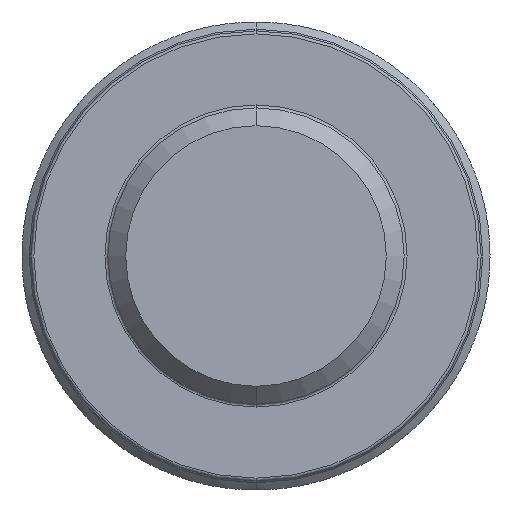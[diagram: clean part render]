
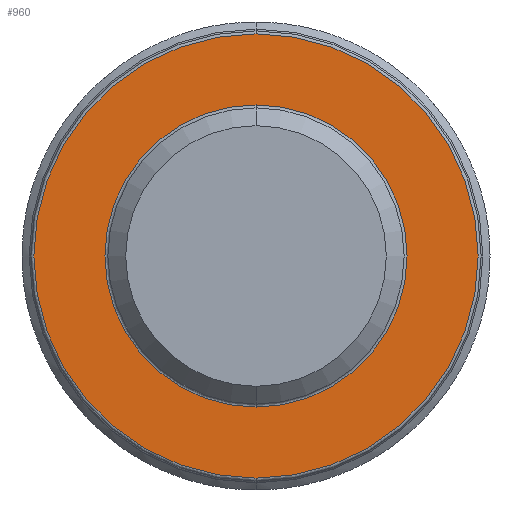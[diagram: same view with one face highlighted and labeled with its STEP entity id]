
A CAD part, front view. The second image highlights one B-rep face of the part: STEP entity #960.
In plain terms, the highlighted planar face has unit normal (0, -1, 0).
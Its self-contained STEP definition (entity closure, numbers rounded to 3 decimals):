
#39 = ORIENTED_EDGE ( 'NONE', *, *, #2730, .T. ) ;
#41 = VERTEX_POINT ( 'NONE', #648 ) ;
#360 = AXIS2_PLACEMENT_3D ( 'NONE', #5752, #2528, #1775 ) ;
#648 = CARTESIAN_POINT ( 'NONE',  ( 0., -10., 7.5 ) ) ;
#780 = PLANE ( 'NONE',  #6073 ) ;
#844 = CARTESIAN_POINT ( 'NONE',  ( 0., -10., -7.5 ) ) ;
#960 = ADVANCED_FACE ( 'NONE', ( #4502, #3189 ), #780, .T. ) ;
#1239 = VERTEX_POINT ( 'NONE', #4533 ) ;
#1289 = CARTESIAN_POINT ( 'NONE',  ( 5., -10., 0. ) ) ;
#1775 = DIRECTION ( 'NONE',  ( 0., 0., -1. ) ) ;
#2094 = CARTESIAN_POINT ( 'NONE',  ( 0., -10., 0. ) ) ;
#2133 = DIRECTION ( 'NONE',  ( 0., -1., 0. ) ) ;
#2486 = AXIS2_PLACEMENT_3D ( 'NONE', #5419, #4157, #7988 ) ;
#2528 = DIRECTION ( 'NONE',  ( 0., 1., 0. ) ) ;
#2730 = EDGE_CURVE ( 'NONE', #3287, #41, #4808, .T. ) ;
#3027 = CIRCLE ( 'NONE', #2486, 5.1 ) ;
#3189 = FACE_OUTER_BOUND ( 'NONE', #5299, .T. ) ;
#3287 = VERTEX_POINT ( 'NONE', #844 ) ;
#3490 = VERTEX_POINT ( 'NONE', #7834 ) ;
#3525 = ORIENTED_EDGE ( 'NONE', *, *, #6093, .T. ) ;
#3568 = DIRECTION ( 'NONE',  ( 0., 0., -1. ) ) ;
#4138 = AXIS2_PLACEMENT_3D ( 'NONE', #4760, #2133, #7298 ) ;
#4157 = DIRECTION ( 'NONE',  ( 0., 1., 0. ) ) ;
#4502 = FACE_BOUND ( 'NONE', #5627, .T. ) ;
#4533 = CARTESIAN_POINT ( 'NONE',  ( 0., -10., -5.1 ) ) ;
#4622 = DIRECTION ( 'NONE',  ( 0., 0., -1. ) ) ;
#4760 = CARTESIAN_POINT ( 'NONE',  ( 0., -10., 0. ) ) ;
#4808 = CIRCLE ( 'NONE', #4138, 7.5 ) ;
#5299 = EDGE_LOOP ( 'NONE', ( #39, #6809 ) ) ;
#5419 = CARTESIAN_POINT ( 'NONE',  ( 0., -10., 0. ) ) ;
#5627 = EDGE_LOOP ( 'NONE', ( #6250, #3525 ) ) ;
#5752 = CARTESIAN_POINT ( 'NONE',  ( 0., -10., 0. ) ) ;
#5788 = EDGE_CURVE ( 'NONE', #41, #3287, #7214, .T. ) ;
#5876 = AXIS2_PLACEMENT_3D ( 'NONE', #2094, #7299, #3568 ) ;
#6073 = AXIS2_PLACEMENT_3D ( 'NONE', #1289, #7826, #4622 ) ;
#6093 = EDGE_CURVE ( 'NONE', #3490, #1239, #3027, .T. ) ;
#6250 = ORIENTED_EDGE ( 'NONE', *, *, #8340, .T. ) ;
#6809 = ORIENTED_EDGE ( 'NONE', *, *, #5788, .T. ) ;
#7214 = CIRCLE ( 'NONE', #5876, 7.5 ) ;
#7298 = DIRECTION ( 'NONE',  ( 0., 0., -1. ) ) ;
#7299 = DIRECTION ( 'NONE',  ( 0., -1., 0. ) ) ;
#7826 = DIRECTION ( 'NONE',  ( 0., -1., 0. ) ) ;
#7834 = CARTESIAN_POINT ( 'NONE',  ( 0., -10., 5.1 ) ) ;
#7988 = DIRECTION ( 'NONE',  ( 0., 0., -1. ) ) ;
#8337 = CIRCLE ( 'NONE', #360, 5.1 ) ;
#8340 = EDGE_CURVE ( 'NONE', #1239, #3490, #8337, .T. ) ;
